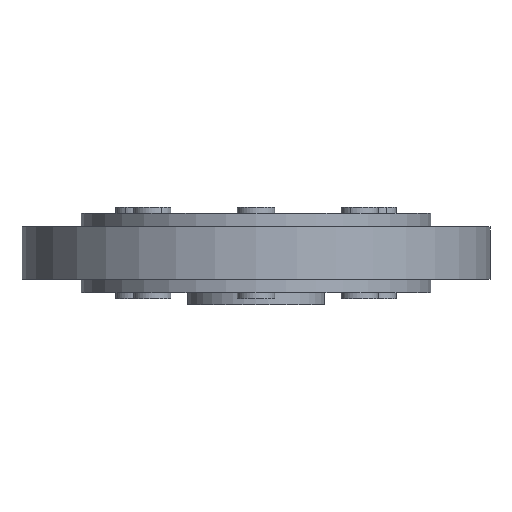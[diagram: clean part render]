
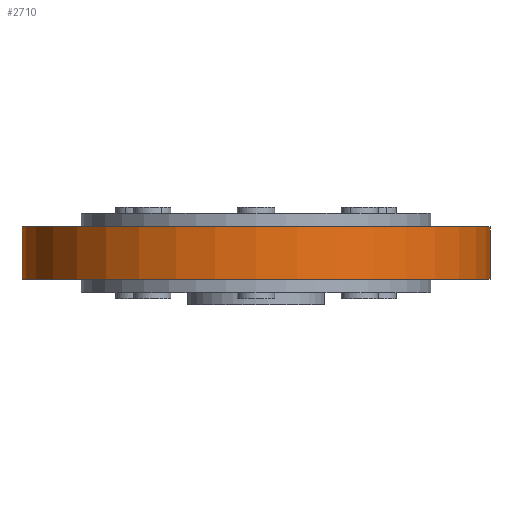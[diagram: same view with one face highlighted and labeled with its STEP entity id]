
A CAD part, front view. The second image highlights one B-rep face of the part: STEP entity #2710.
In plain terms, the highlighted cylindrical face has radius 37.5 mm (diameter 75 mm), a partial arc.
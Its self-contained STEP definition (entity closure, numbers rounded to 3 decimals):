
#328 = CARTESIAN_POINT ( 'NONE',  ( -37.5, 0., 4.2 ) ) ;
#619 = LINE ( 'NONE', #1826, #6928 ) ;
#1358 = ORIENTED_EDGE ( 'NONE', *, *, #2116, .F. ) ;
#1408 = ORIENTED_EDGE ( 'NONE', *, *, #12806, .T. ) ;
#1826 = CARTESIAN_POINT ( 'NONE',  ( 37.5, 0., 4.2 ) ) ;
#2116 = EDGE_CURVE ( 'NONE', #7880, #11790, #6701, .T. ) ;
#2710 = ADVANCED_FACE ( 'NONE', ( #10622 ), #13844, .T. ) ;
#2930 = AXIS2_PLACEMENT_3D ( 'NONE', #10210, #7914, #5920 ) ;
#3341 = VERTEX_POINT ( 'NONE', #12583 ) ;
#3722 = AXIS2_PLACEMENT_3D ( 'NONE', #12832, #12765, #8407 ) ;
#4004 = CARTESIAN_POINT ( 'NONE',  ( 0., 0., 4.2 ) ) ;
#4528 = CARTESIAN_POINT ( 'NONE',  ( 37.5, 0., -4.2 ) ) ;
#4849 = DIRECTION ( 'NONE',  ( 1., 0., 0. ) ) ;
#5157 = DIRECTION ( 'NONE',  ( 0., 0., -1. ) ) ;
#5920 = DIRECTION ( 'NONE',  ( 1., 0., 0. ) ) ;
#6363 = LINE ( 'NONE', #11648, #8669 ) ;
#6675 = VERTEX_POINT ( 'NONE', #4528 ) ;
#6701 = CIRCLE ( 'NONE', #10347, 37.5 ) ;
#6928 = VECTOR ( 'NONE', #12737, 1000. ) ;
#7134 = DIRECTION ( 'NONE',  ( 0., 0., 1. ) ) ;
#7880 = VERTEX_POINT ( 'NONE', #328 ) ;
#7914 = DIRECTION ( 'NONE',  ( 0., 0., 1. ) ) ;
#8094 = EDGE_CURVE ( 'NONE', #11790, #6675, #619, .T. ) ;
#8407 = DIRECTION ( 'NONE',  ( -1., 0., 0. ) ) ;
#8669 = VECTOR ( 'NONE', #5157, 1000. ) ;
#9565 = ORIENTED_EDGE ( 'NONE', *, *, #11846, .T. ) ;
#9994 = CARTESIAN_POINT ( 'NONE',  ( 37.5, 0., 4.2 ) ) ;
#10210 = CARTESIAN_POINT ( 'NONE',  ( 0., 0., -4.2 ) ) ;
#10347 = AXIS2_PLACEMENT_3D ( 'NONE', #4004, #7134, #4849 ) ;
#10349 = EDGE_LOOP ( 'NONE', ( #13216, #1358, #1408, #9565 ) ) ;
#10622 = FACE_OUTER_BOUND ( 'NONE', #10349, .T. ) ;
#11573 = CIRCLE ( 'NONE', #2930, 37.5 ) ;
#11648 = CARTESIAN_POINT ( 'NONE',  ( -37.5, 0., 4.2 ) ) ;
#11790 = VERTEX_POINT ( 'NONE', #9994 ) ;
#11846 = EDGE_CURVE ( 'NONE', #3341, #6675, #11573, .T. ) ;
#12583 = CARTESIAN_POINT ( 'NONE',  ( -37.5, 0., -4.2 ) ) ;
#12737 = DIRECTION ( 'NONE',  ( 0., 0., -1. ) ) ;
#12765 = DIRECTION ( 'NONE',  ( 0., 0., -1. ) ) ;
#12806 = EDGE_CURVE ( 'NONE', #7880, #3341, #6363, .T. ) ;
#12832 = CARTESIAN_POINT ( 'NONE',  ( 0., 0., 4.2 ) ) ;
#13216 = ORIENTED_EDGE ( 'NONE', *, *, #8094, .F. ) ;
#13844 = CYLINDRICAL_SURFACE ( 'NONE', #3722, 37.5 ) ;
